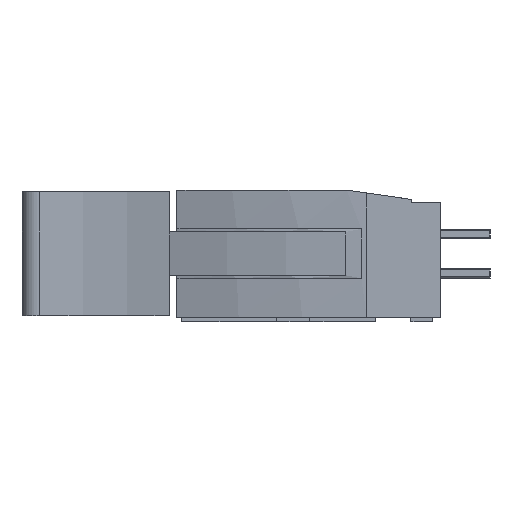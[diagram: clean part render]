
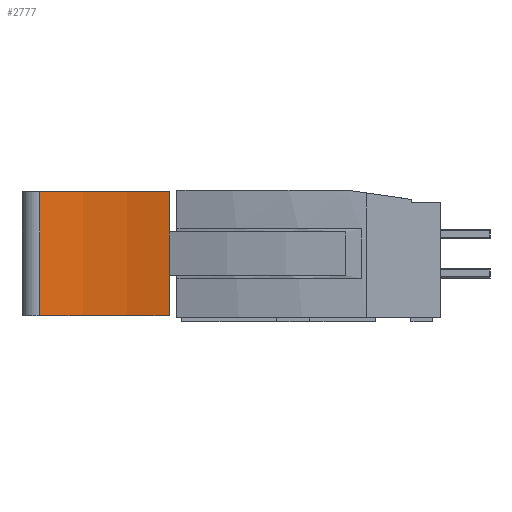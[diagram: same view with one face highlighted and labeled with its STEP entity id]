
A CAD part, left-side view. The second image highlights one B-rep face of the part: STEP entity #2777.
In plain terms, the highlighted cylindrical face has radius 20 mm (diameter 40 mm), a partial arc.
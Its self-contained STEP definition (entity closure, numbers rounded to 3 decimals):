
#16872 = EDGE_CURVE ( 'NONE', #15697, #17274, #24315, .T. ) ;
#783 = CIRCLE ( 'NONE', #784, 20. ) ;
#784 = AXIS2_PLACEMENT_3D ( 'NONE', #785, #786, #787 ) ;
#785 = CARTESIAN_POINT ( 'NONE',  ( -57.98, 23., -4. ) ) ;
#786 = DIRECTION ( 'NONE',  ( 0., 0., 1. ) ) ;
#787 = DIRECTION ( 'NONE',  ( 0., -1., 0. ) ) ;
#17274 = VERTEX_POINT ( 'NONE', #24541 ) ;
#17608 = LINE ( 'NONE', #17616, #17617 ) ;
#17616 = CARTESIAN_POINT ( 'NONE',  ( -38.185, 25.857, 4. ) ) ;
#17617 = VECTOR ( 'NONE', #17618, 1000. ) ;
#17618 = DIRECTION ( 'NONE',  ( 0., 0., -1. ) ) ;
#17768 = EDGE_LOOP ( 'NONE', ( #18314, #18879, #11244, #12154, #13698, #3156 ) ) ;
#1629 = CARTESIAN_POINT ( 'NONE',  ( -38.751, 17.5, -4. ) ) ;
#18314 = ORIENTED_EDGE ( 'NONE', *, *, #27456, .F. ) ;
#2416 = EDGE_CURVE ( 'NONE', #3099, #29941, #6895, .T. ) ;
#18879 = ORIENTED_EDGE ( 'NONE', *, *, #31243, .F. ) ;
#2777 = ADVANCED_FACE ( 'NONE', ( #8853 ), #8903, .F. ) ;
#3099 = VERTEX_POINT ( 'NONE', #10226 ) ;
#3156 = ORIENTED_EDGE ( 'NONE', *, *, #5686, .T. ) ;
#21081 = CARTESIAN_POINT ( 'NONE',  ( -38.185, 25.857, -4. ) ) ;
#5686 = EDGE_CURVE ( 'NONE', #29941, #8063, #17608, .T. ) ;
#22799 = LINE ( 'NONE', #22800, #22801 ) ;
#22800 = CARTESIAN_POINT ( 'NONE',  ( -38.751, 17.5, 4. ) ) ;
#22801 = VECTOR ( 'NONE', #22802, 1000. ) ;
#22802 = DIRECTION ( 'NONE',  ( 0., 0., -1. ) ) ;
#6895 = CIRCLE ( 'NONE', #6896, 20. ) ;
#6896 = AXIS2_PLACEMENT_3D ( 'NONE', #6897, #6898, #6899 ) ;
#6897 = CARTESIAN_POINT ( 'NONE',  ( -57.98, 23., 4. ) ) ;
#6898 = DIRECTION ( 'NONE',  ( 0., 0., 1. ) ) ;
#6899 = DIRECTION ( 'NONE',  ( 0., -1., 0. ) ) ;
#23798 = CARTESIAN_POINT ( 'NONE',  ( -38.751, 17.5, 1.4 ) ) ;
#24315 = LINE ( 'NONE', #24316, #24317 ) ;
#24316 = CARTESIAN_POINT ( 'NONE',  ( -38.751, 17.5, 1.4 ) ) ;
#24317 = VECTOR ( 'NONE', #24318, 1000. ) ;
#24318 = DIRECTION ( 'NONE',  ( 0., 0., -1. ) ) ;
#8063 = VERTEX_POINT ( 'NONE', #21081 ) ;
#24541 = CARTESIAN_POINT ( 'NONE',  ( -38.751, 17.5, -1.4 ) ) ;
#8853 = FACE_OUTER_BOUND ( 'NONE', #17768, .T. ) ;
#8903 = CYLINDRICAL_SURFACE ( 'NONE', #8904, 20. ) ;
#8904 = AXIS2_PLACEMENT_3D ( 'NONE', #8905, #8906, #8907 ) ;
#8905 = CARTESIAN_POINT ( 'NONE',  ( -57.98, 23., 4. ) ) ;
#8906 = DIRECTION ( 'NONE',  ( 0., 0., -1. ) ) ;
#8907 = DIRECTION ( 'NONE',  ( 0., 1., 0. ) ) ;
#9195 = CARTESIAN_POINT ( 'NONE',  ( -38.185, 25.857, 4. ) ) ;
#10226 = CARTESIAN_POINT ( 'NONE',  ( -38.751, 17.5, 4. ) ) ;
#27456 = EDGE_CURVE ( 'NONE', #27927, #8063, #783, .T. ) ;
#11244 = ORIENTED_EDGE ( 'NONE', *, *, #16872, .F. ) ;
#11534 = LINE ( 'NONE', #11535, #11536 ) ;
#11535 = CARTESIAN_POINT ( 'NONE',  ( -38.751, 17.5, 4. ) ) ;
#11536 = VECTOR ( 'NONE', #11537, 1000. ) ;
#11537 = DIRECTION ( 'NONE',  ( 0., 0., -1. ) ) ;
#27927 = VERTEX_POINT ( 'NONE', #1629 ) ;
#12154 = ORIENTED_EDGE ( 'NONE', *, *, #12801, .F. ) ;
#12801 = EDGE_CURVE ( 'NONE', #3099, #15697, #22799, .T. ) ;
#29941 = VERTEX_POINT ( 'NONE', #9195 ) ;
#13698 = ORIENTED_EDGE ( 'NONE', *, *, #2416, .T. ) ;
#31243 = EDGE_CURVE ( 'NONE', #17274, #27927, #11534, .T. ) ;
#15697 = VERTEX_POINT ( 'NONE', #23798 ) ;
